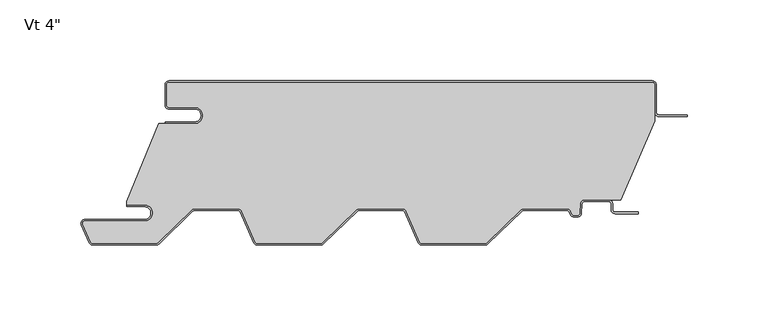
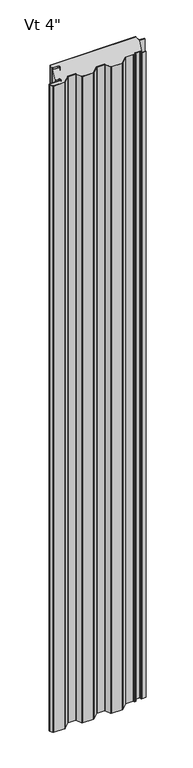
"""IFC4 building model written with IfcOpenShell, lengths in millimetres: plate geometry."""

import ifcopenshell
import ifcopenshell.guid

model = None  # the IFC model being written
_history = None  # IfcOwnerHistory: only IFC2X3 demands one
_inside = {}  # id of a spatial element -> (the spatial element, [elements in it])
_under = {}  # id of a project, library or spatial element -> (it, [spatial elements below it])
_declared = {}  # id of a project -> (the project, [libraries it declares])
_typed = {}  # id of a type object -> (the type object, [elements of that type])
_made_of = {}  # id of a material, layer set ... -> (it, [elements and type objects made of it])


def new_model(schema):
    """Start an empty IFC model of exactly this schema.

    Asked for "IFC4X3", IfcOpenShell would pick the latest addendum, in which some entities
    have other attributes; the version numbers below select the first issue.
    IFC2X3 requires an IfcOwnerHistory on every rooted entity: one is made here for all.
    """
    global model, _history
    if schema == "IFC4X3":
        model = ifcopenshell.file(schema_version=(4, 3, 0, 0))
    else:
        model = ifcopenshell.file(schema=schema)
    _inside.clear()
    _under.clear()
    _declared.clear()
    _typed.clear()
    _made_of.clear()
    _history = None
    if model.schema == "IFC2X3":
        org = make("IfcOrganization", Name="unknown")
        user = make(
            "IfcPersonAndOrganization",
            ThePerson=make("IfcPerson", FamilyName="unknown"),
            TheOrganization=org,
        )
        app = make(
            "IfcApplication",
            ApplicationDeveloper=org,
            Version="unknown",
            ApplicationFullName="unknown",
            ApplicationIdentifier="unknown",
        )
        _history = make(
            "IfcOwnerHistory",
            OwningUser=user,
            OwningApplication=app,
            ChangeAction="ADDED",
            CreationDate=0,
        )
    return model


def make(cls, **values):
    """One entity of the class cls with the attributes given. An attribute that is None is left unset."""
    return model.create_entity(
        cls, **{name: value for name, value in values.items() if value is not None}
    )


def rooted(cls, **values):
    """An entity with a GlobalId (a new one), such as an element, a storey or a relation."""
    return make(cls, GlobalId=ifcopenshell.guid.new(), OwnerHistory=_history, **values)


def si_unit(unit_type, name, prefix=None):
    """IfcSIUnit, for example si_unit("LENGTHUNIT", "METRE", prefix="MILLI")."""
    return make("IfcSIUnit", UnitType=unit_type, Prefix=prefix, Name=name)


def assignment(units):
    """IfcUnitAssignment: the units of a project."""
    return None if units is None else make("IfcUnitAssignment", Units=units)


def point(xyz):
    """IfcCartesianPoint."""
    return None if xyz is None else make("IfcCartesianPoint", Coordinates=xyz)


def direction(xyz):
    """IfcDirection."""
    return None if xyz is None else make("IfcDirection", DirectionRatios=xyz)


def frame(location, z_axis=None, x_axis=None):
    """IfcAxis2Placement3D, a coordinate frame: its origin and axes. An axis left out is left unset."""
    return make(
        "IfcAxis2Placement3D",
        Location=point(location),
        Axis=direction(z_axis),
        RefDirection=direction(x_axis),
    )


def frame_2d(location, x_axis=None):
    """IfcAxis2Placement2D, a coordinate frame in the plane: its origin and x axis."""
    return make(
        "IfcAxis2Placement2D", Location=point(location), RefDirection=direction(x_axis)
    )


def origin():
    """The frame at (0, 0, 0) with its axes left unset."""
    return frame((0.0, 0.0, 0.0))


def origin_with_axes():
    """The frame at (0, 0, 0) with the z axis (0, 0, 1) and the x axis (1, 0, 0) written out."""
    return frame((0.0, 0.0, 0.0), z_axis=(0.0, 0.0, 1.0), x_axis=(1.0, 0.0, 0.0))


def place(relative_to, where):
    """IfcLocalPlacement: puts the frame where relative to a parent placement (None: the world)."""
    return make(
        "IfcLocalPlacement", PlacementRelTo=relative_to, RelativePlacement=where
    )


def context(
    kind, dimensions, precision=None, world=None, true_north=None, identifier=None
):
    """IfcGeometricRepresentationContext, for example the 3D "Model" context."""
    return make(
        "IfcGeometricRepresentationContext",
        ContextIdentifier=identifier,
        ContextType=kind,
        CoordinateSpaceDimension=dimensions,
        Precision=precision,
        WorldCoordinateSystem=world,
        TrueNorth=true_north,
    )


def project(units=None, contexts=None):
    """IfcProject with its units and contexts."""
    return rooted(
        "IfcProject",
        Name="project",
        RepresentationContexts=contexts,
        UnitsInContext=assignment(units),
    )


def spatial(cls, under=None, at=None, **own):
    """A site, building, storey or space (cls), placed at a placement, below another one or the project."""
    s = rooted(cls, ObjectPlacement=at, **own)
    if under is not None:
        _under.setdefault(under.id(), (under, []))[1].append(s)
    return s


def polyline(points):
    """IfcPolyline through the points."""
    return make("IfcPolyline", Points=[point(p) for p in points])


def circle_curve(where, radius):
    """IfcCircle in the frame where."""
    return make("IfcCircle", Position=where, Radius=radius)


def trimmed(basis, trim1, trim2, sense, master):
    """IfcTrimmedCurve: the piece of a basis curve between two trims."""
    return make(
        "IfcTrimmedCurve",
        BasisCurve=basis,
        Trim1=trim1,
        Trim2=trim2,
        SenseAgreement=sense,
        MasterRepresentation=master,
    )


def segment(curve, same_sense, transition):
    """IfcCompositeCurveSegment."""
    return make(
        "IfcCompositeCurveSegment",
        Transition=transition,
        SameSense=same_sense,
        ParentCurve=curve,
    )


def composite_curve(segments, self_intersect=None):
    """IfcCompositeCurve: segments joined end to end."""
    return make("IfcCompositeCurve", Segments=segments, SelfIntersect=self_intersect)


def outline(outer, holes=None, kind="AREA"):
    """IfcArbitraryClosedProfileDef: a profile drawn as a closed curve; with holes, ...WithVoids."""
    if holes is None:
        return make("IfcArbitraryClosedProfileDef", ProfileType=kind, OuterCurve=outer)
    return make(
        "IfcArbitraryProfileDefWithVoids",
        ProfileType=kind,
        OuterCurve=outer,
        InnerCurves=holes,
    )


def extrude(swept, where, along, depth):
    """IfcExtrudedAreaSolid: the profile swept, set in the frame where, extruded along a direction by depth."""
    return make(
        "IfcExtrudedAreaSolid",
        SweptArea=swept,
        Position=where,
        ExtrudedDirection=direction(along),
        Depth=depth,
    )


def shape(context_of_items, identifier, shape_type, items):
    """IfcShapeRepresentation: the items that make up one representation, for example the "Body"."""
    return make(
        "IfcShapeRepresentation",
        ContextOfItems=context_of_items,
        RepresentationIdentifier=identifier,
        RepresentationType=shape_type,
        Items=items,
    )


def source(mapping_origin, context_of_items, identifier, shape_type, items):
    """IfcRepresentationMap: a shape defined once, which mapped items show again and again."""
    return make(
        "IfcRepresentationMap",
        MappingOrigin=mapping_origin,
        MappedRepresentation=shape(context_of_items, identifier, shape_type, items),
    )


def transform(
    local_origin,
    x_axis=None,
    y_axis=None,
    z_axis=None,
    scale=None,
    scale2=None,
    scale3=None,
    uniform=True,
):
    """IfcCartesianTransformationOperator3D, or its non-uniform kind. x_axis, y_axis, z_axis: its Axis1, 2, 3."""
    if uniform:
        return make(
            "IfcCartesianTransformationOperator3D",
            Axis1=direction(x_axis),
            Axis2=direction(y_axis),
            LocalOrigin=point(local_origin),
            Scale=scale,
            Axis3=direction(z_axis),
        )
    return make(
        "IfcCartesianTransformationOperator3DnonUniform",
        Axis1=direction(x_axis),
        Axis2=direction(y_axis),
        LocalOrigin=point(local_origin),
        Scale=scale,
        Axis3=direction(z_axis),
        Scale2=scale2,
        Scale3=scale3,
    )


def mapped(mapping_source, mapping_target):
    """IfcMappedItem: shows the shape of a source again, moved by a transform."""
    return make(
        "IfcMappedItem", MappingSource=mapping_source, MappingTarget=mapping_target
    )


def made_of(thing, what):
    """Note that an element or type object is made of a material, layer set ...; save() writes the relation."""
    if what is not None:
        _made_of.setdefault(what.id(), (what, []))[1].append(thing)
    return thing


def element(
    cls,
    number,
    at=None,
    inside=None,
    cuts=None,
    type_object=None,
    material=None,
    context=None,
    identifier="Body",
    shape_type=None,
    held_by="IfcProductDefinitionShape",
    body=None,
    shapes=None,
    **own,
):
    """One element of the class cls, such as IfcWall. Its Tag is "e" and its number.

    at: its placement. inside: the storey or other place that contains it. cuts: it is an
    opening in that element (IfcRelVoidsElement). A single representation is given by context,
    identifier, shape_type and body (its items); several are given by shapes. held_by: the class
    of the entity that holds the representations. save() writes the other relations.
    """
    e = rooted(cls, Tag="e%d" % number, ObjectPlacement=at, **own)
    if body is not None:
        shapes = [shape(context, identifier, shape_type, body)]
    if shapes is not None:
        e.Representation = make(held_by, Representations=shapes)
    if inside is not None:
        _inside.setdefault(inside.id(), (inside, []))[1].append(e)
    if cuts is not None:
        rooted(
            "IfcRelVoidsElement", RelatingBuildingElement=cuts, RelatedOpeningElement=e
        )
    if type_object is not None:
        _typed.setdefault(type_object.id(), (type_object, []))[1].append(e)
    return made_of(e, material)


def aggregate(whole, parts):
    """IfcRelAggregates: a whole, such as a stair, and the parts it consists of."""
    return rooted("IfcRelAggregates", RelatingObject=whole, RelatedObjects=parts)


def save(model, path):
    """Write the relations noted so far, then the file.

    IfcRelAggregates (storeys below a building ...), IfcRelContainedInSpatialStructure (elements
    in a storey), IfcRelDefinesByType, IfcRelAssociatesMaterial and IfcRelDeclares: one each for
    every whole, place, type object, material and project.
    """
    for whole, parts in _under.values():
        aggregate(whole, parts)
    for where, things in _inside.values():
        rooted(
            "IfcRelContainedInSpatialStructure",
            RelatedElements=things,
            RelatingStructure=where,
        )
    for kind, things in _typed.values():
        rooted("IfcRelDefinesByType", RelatedObjects=things, RelatingType=kind)
    for what, things in _made_of.values():
        rooted("IfcRelAssociatesMaterial", RelatedObjects=things, RelatingMaterial=what)
    for by, libraries in _declared.values():
        rooted("IfcRelDeclares", RelatingContext=by, RelatedDefinitions=libraries)
    model.write(path)


def plate_20f1ea8d(model_context):
    return source(origin(), model_context, "Body", "SweptSolid", [
        extrude(outline(composite_curve([segment(trimmed(circle_curve(frame_2d((-133.34375, -21.4324412)), 4.96875), [point((-133.34375, -26.4011912))], [point((-133.34375, -16.4636912))], True, "CARTESIAN"), True, "CONTINUOUS"), segment(polyline([(-133.34375, -16.4636912), (-149.21875, -16.4636912)]), True, "CONTINUOUS"), segment(trimmed(circle_curve(frame_2d((-149.21875, -15.0824412)), 1.38125), [point((-149.21875, -16.4636912))], [point((-150.6, -15.0824412))], False, "CARTESIAN"), True, "CONTINUOUS"), segment(polyline([(-150.6, -15.0824412), (-150.6, -2.3824412)]), True, "CONTINUOUS"), segment(trimmed(circle_curve(frame_2d((-149.21875, -2.3824412)), 1.38125), [point((-150.6, -2.3824412))], [point((-149.21875, -1.0011912))], False, "CARTESIAN"), True, "CONTINUOUS"), segment(polyline([(-149.21875, -1.0011912), (149.23125, -1.0011912)]), True, "CONTINUOUS"), segment(trimmed(circle_curve(frame_2d((149.23125, -2.3824412)), 1.38125), [point((149.23125, -1.0011912))], [point((150.6125, -2.3824412))], False, "CARTESIAN"), True, "CONTINUOUS"), segment(polyline([(150.6125, -2.3824412), (150.6125, -24.8719682), (129.7955434, -73.6136912), (107.3683457, -73.6136912)]), True, "CONTINUOUS"), segment(trimmed(circle_curve(frame_2d((107.3683457, -76.2011912)), 2.5875), [point((107.3683457, -73.6136912))], [point((104.7843918, -76.0657719))], True, "CARTESIAN"), True, "CONTINUOUS"), segment(polyline([(104.7843918, -76.0657719), (104.4823155, -81.8297302)]), True, "CONTINUOUS"), segment(trimmed(circle_curve(frame_2d((103.1029585, -81.7574412)), 1.38125), [point((104.4823155, -81.8297302))], [point((103.1029585, -83.1386912))], False, "CARTESIAN"), True, "CONTINUOUS"), segment(polyline([(103.1029585, -83.1386912), (100.7754519, -83.1386912)]), True, "CONTINUOUS"), segment(trimmed(circle_curve(frame_2d((100.7754519, -81.7574412)), 1.38125), [point((100.7754519, -83.1386912))], [point((99.5124516, -82.3166208))], False, "CARTESIAN"), True, "CONTINUOUS"), segment(polyline([(99.5124516, -82.3166208), (98.7640306, -80.6261871)]), True, "CONTINUOUS"), segment(trimmed(circle_curve(frame_2d((96.3980481, -81.6737)), 2.5875), [point((98.7640306, -80.6261871))], [point((96.3980481, -79.0862))], True, "CARTESIAN"), True, "CONTINUOUS"), segment(polyline([(96.3980481, -79.0862), (69.8742003, -79.0862)]), True, "CONTINUOUS"), segment(trimmed(circle_curve(frame_2d((69.8742003, -81.6737)), 2.5875), [point((69.8742003, -79.0862))], [point((68.0745496, -79.8145567))], True, "CARTESIAN"), True, "CONTINUOUS"), segment(polyline([(68.0745496, -79.8145567), (47.0036462, -100.2111912)]), True, "CONTINUOUS"), segment(trimmed(circle_curve(frame_2d((46.0429631, -99.21875)), 1.38125), [point((47.0036462, -100.2111912))], [point((46.0429631, -100.6))], False, "CARTESIAN"), True, "CONTINUOUS"), segment(polyline([(46.0429631, -100.6), (6.9062557, -100.6)]), True, "CONTINUOUS"), segment(trimmed(circle_curve(frame_2d((6.9062557, -99.21875)), 1.38125), [point((6.9062557, -100.6))], [point((5.6432554, -99.7779296))], False, "CARTESIAN"), True, "CONTINUOUS"), segment(polyline([(5.6432554, -99.7779296), (-2.8359694, -80.6261871)]), True, "CONTINUOUS"), segment(trimmed(circle_curve(frame_2d((-5.2019519, -81.6737)), 2.5875), [point((-2.8359694, -80.6261871))], [point((-5.2019519, -79.0862))], True, "CARTESIAN"), True, "CONTINUOUS"), segment(polyline([(-5.2019519, -79.0862), (-31.7257997, -79.0862)]), True, "CONTINUOUS"), segment(trimmed(circle_curve(frame_2d((-31.7257997, -81.6737)), 2.5875), [point((-31.7257997, -79.0862))], [point((-33.5254504, -79.8145567))], True, "CARTESIAN"), True, "CONTINUOUS"), segment(polyline([(-33.5254504, -79.8145567), (-54.5963538, -100.2111912)]), True, "CONTINUOUS"), segment(trimmed(circle_curve(frame_2d((-55.5570369, -99.21875)), 1.38125), [point((-54.5963538, -100.2111912))], [point((-55.5570369, -100.6))], False, "CARTESIAN"), True, "CONTINUOUS"), segment(polyline([(-55.5570369, -100.6), (-94.6937443, -100.6)]), True, "CONTINUOUS"), segment(trimmed(circle_curve(frame_2d((-94.6937443, -99.21875)), 1.38125), [point((-94.6937443, -100.6))], [point((-95.9567446, -99.7779296))], False, "CARTESIAN"), True, "CONTINUOUS"), segment(polyline([(-95.9567446, -99.7779296), (-104.4359694, -80.6261871)]), True, "CONTINUOUS"), segment(trimmed(circle_curve(frame_2d((-106.8019519, -81.6737)), 2.5875), [point((-104.4359694, -80.6261871))], [point((-106.8019519, -79.0862))], True, "CARTESIAN"), True, "CONTINUOUS"), segment(polyline([(-106.8019519, -79.0862), (-133.3257997, -79.0862)]), True, "CONTINUOUS"), segment(trimmed(circle_curve(frame_2d((-133.3257997, -81.6737)), 2.5875), [point((-133.3257997, -79.0862))], [point((-135.1254504, -79.8145567))], True, "CARTESIAN"), True, "CONTINUOUS"), segment(polyline([(-135.1254504, -79.8145567), (-155.9876931, -100.0092077)]), True, "CONTINUOUS"), segment(trimmed(circle_curve(frame_2d((-157.4474446, -98.5012)), 2.0988), [point((-155.9876931, -100.0092077))], [point((-157.4474446, -100.6))], False, "CARTESIAN"), True, "CONTINUOUS"), segment(polyline([(-157.4474446, -100.6), (-196.2937443, -100.6)]), True, "CONTINUOUS"), segment(trimmed(circle_curve(frame_2d((-196.2937443, -99.21875)), 1.38125), [point((-196.2937443, -100.6))], [point((-197.5567446, -99.7779296))], False, "CARTESIAN"), True, "CONTINUOUS"), segment(polyline([(-197.5567446, -99.7779296), (-202.4761552, -88.6666208)]), True, "CONTINUOUS"), segment(trimmed(circle_curve(frame_2d((-201.2131549, -88.1074412)), 1.38125), [point((-202.4761552, -88.6666208))], [point((-201.2131549, -86.7261912))], False, "CARTESIAN"), True, "CONTINUOUS"), segment(polyline([(-201.2131549, -86.7261912), (-164.3, -86.7261912)]), True, "CONTINUOUS"), segment(trimmed(circle_curve(frame_2d((-164.3, -81.7574412)), 4.96875), [point((-164.3, -86.7261912))], [point((-164.3, -76.7886912))], True, "CARTESIAN"), True, "CONTINUOUS"), segment(polyline([(-164.3, -76.7886912), (-175.4125, -76.7886912), (-175.4125, -74.633822), (-155.5914112, -26.4011912), (-133.34375, -26.4011912)]), True, "CONTINUOUS")], self_intersect=False)), origin_with_axes(), (0.0, 0.0, 1.0), 2400.0),
        extrude(outline(composite_curve([segment(polyline([(-151.6, -25.4), (-133.34375, -25.4)]), True, "CONTINUOUS"), segment(trimmed(circle_curve(frame_2d((-133.34375, -21.43125)), 3.96875), [point((-133.34375, -25.4))], [point((-133.34375, -17.4625))], True, "CARTESIAN"), True, "CONTINUOUS"), segment(polyline([(-133.34375, -17.4625), (-149.21875, -17.4625)]), True, "CONTINUOUS"), segment(trimmed(circle_curve(frame_2d((-149.21875, -15.08125)), 2.38125), [point((-149.21875, -17.4625))], [point((-151.6, -15.08125))], False, "CARTESIAN"), True, "CONTINUOUS"), segment(polyline([(-151.6, -15.08125), (-151.6, -2.38125)]), True, "CONTINUOUS"), segment(trimmed(circle_curve(frame_2d((-149.21875, -2.38125)), 2.38125), [point((-151.6, -2.38125))], [point((-149.21875, 0.0))], False, "CARTESIAN"), True, "CONTINUOUS"), segment(polyline([(-149.21875, 0.0), (149.23125, 0.0)]), True, "CONTINUOUS"), segment(trimmed(circle_curve(frame_2d((149.23125, -2.38125)), 2.38125), [point((149.23125, 0.0))], [point((151.6125, -2.38125))], False, "CARTESIAN"), True, "CONTINUOUS"), segment(polyline([(151.6125, -2.38125), (151.6125, -19.446875)]), True, "CONTINUOUS"), segment(trimmed(circle_curve(frame_2d((153.2, -19.446875)), 1.5875), [point((151.6125, -19.446875))], [point((153.2, -21.034375))], True, "CARTESIAN"), True, "CONTINUOUS"), segment(polyline([(153.2, -21.034375), (170.6625, -21.034375), (170.6625, -22.034375), (153.2, -22.034375)]), True, "CONTINUOUS"), segment(trimmed(circle_curve(frame_2d((153.2, -19.446875)), 2.5875), [point((153.2, -22.034375))], [point((150.6125, -19.446875))], False, "CARTESIAN"), True, "CONTINUOUS"), segment(polyline([(150.6125, -19.446875), (150.6125, -2.38125)]), True, "CONTINUOUS"), segment(trimmed(circle_curve(frame_2d((149.23125, -2.38125)), 1.38125), [point((150.6125, -2.38125))], [point((149.23125, -1.0))], True, "CARTESIAN"), True, "CONTINUOUS"), segment(polyline([(149.23125, -1.0), (-149.21875, -1.0)]), True, "CONTINUOUS"), segment(trimmed(circle_curve(frame_2d((-149.21875, -2.38125)), 1.38125), [point((-149.21875, -1.0))], [point((-150.6, -2.38125))], True, "CARTESIAN"), True, "CONTINUOUS"), segment(polyline([(-150.6, -2.38125), (-150.6, -15.08125)]), True, "CONTINUOUS"), segment(trimmed(circle_curve(frame_2d((-149.21875, -15.08125)), 1.38125), [point((-150.6, -15.08125))], [point((-149.21875, -16.4625))], True, "CARTESIAN"), True, "CONTINUOUS"), segment(polyline([(-149.21875, -16.4625), (-133.34375, -16.4625)]), True, "CONTINUOUS"), segment(trimmed(circle_curve(frame_2d((-133.34375, -21.43125)), 4.96875), [point((-133.34375, -16.4625))], [point((-133.34375, -26.4))], False, "CARTESIAN"), True, "CONTINUOUS"), segment(polyline([(-133.34375, -26.4), (-151.6, -26.4), (-151.6, -25.4)]), True, "CONTINUOUS")], self_intersect=False)), origin_with_axes(), (0.0, 0.0, 1.0), 2400.0),
        extrude(outline(composite_curve([segment(trimmed(circle_curve(frame_2d((-164.3, -81.7574412)), 3.96875), [point((-164.3, -85.7261912))], [point((-164.3, -77.7886912))], True, "CARTESIAN"), True, "CONTINUOUS"), segment(polyline([(-164.3, -77.7886912), (-175.4125, -77.7886912), (-175.4125, -76.7886912), (-164.3, -76.7886912)]), True, "CONTINUOUS"), segment(trimmed(circle_curve(frame_2d((-164.3, -81.7574412)), 4.96875), [point((-164.3, -76.7886912))], [point((-164.3, -86.7261912))], False, "CARTESIAN"), True, "CONTINUOUS"), segment(polyline([(-164.3, -86.7261912), (-201.2131549, -86.7261912)]), True, "CONTINUOUS"), segment(trimmed(circle_curve(frame_2d((-201.2131549, -88.1074412)), 1.38125), [point((-201.2131549, -86.7261912))], [point((-202.4761552, -88.6666208))], True, "CARTESIAN"), True, "CONTINUOUS"), segment(polyline([(-202.4761552, -88.6666208), (-197.5567446, -99.7779296)]), True, "CONTINUOUS"), segment(trimmed(circle_curve(frame_2d((-196.2937443, -99.21875)), 1.38125), [point((-197.5567446, -99.7779296))], [point((-196.2937443, -100.6))], True, "CARTESIAN"), True, "CONTINUOUS"), segment(polyline([(-196.2937443, -100.6), (-157.4474446, -100.6)]), True, "CONTINUOUS"), segment(trimmed(circle_curve(frame_2d((-157.4474446, -98.5012)), 2.0988), [point((-157.4474446, -100.6))], [point((-155.9876931, -100.0092077))], True, "CARTESIAN"), True, "CONTINUOUS"), segment(polyline([(-155.9876931, -100.0092077), (-135.1254504, -79.8145567)]), True, "CONTINUOUS"), segment(trimmed(circle_curve(frame_2d((-133.3257997, -81.6737)), 2.5875), [point((-135.1254504, -79.8145567))], [point((-133.3257997, -79.0862))], False, "CARTESIAN"), True, "CONTINUOUS"), segment(polyline([(-133.3257997, -79.0862), (-106.8019519, -79.0862)]), True, "CONTINUOUS"), segment(trimmed(circle_curve(frame_2d((-106.8019519, -81.6737)), 2.5875), [point((-106.8019519, -79.0862))], [point((-104.4359694, -80.6261871))], False, "CARTESIAN"), True, "CONTINUOUS"), segment(polyline([(-104.4359694, -80.6261871), (-95.9567446, -99.7779296)]), True, "CONTINUOUS"), segment(trimmed(circle_curve(frame_2d((-94.6937443, -99.21875)), 1.38125), [point((-95.9567446, -99.7779296))], [point((-94.6937443, -100.6))], True, "CARTESIAN"), True, "CONTINUOUS"), segment(polyline([(-94.6937443, -100.6), (-55.5570369, -100.6)]), True, "CONTINUOUS"), segment(trimmed(circle_curve(frame_2d((-55.5570369, -99.21875)), 1.38125), [point((-55.5570369, -100.6))], [point((-54.5963538, -100.2111912))], True, "CARTESIAN"), True, "CONTINUOUS"), segment(polyline([(-54.5963538, -100.2111912), (-33.5254504, -79.8145567)]), True, "CONTINUOUS"), segment(trimmed(circle_curve(frame_2d((-31.7257997, -81.6737)), 2.5875), [point((-33.5254504, -79.8145567))], [point((-31.7257997, -79.0862))], False, "CARTESIAN"), True, "CONTINUOUS"), segment(polyline([(-31.7257997, -79.0862), (-5.2019519, -79.0862)]), True, "CONTINUOUS"), segment(trimmed(circle_curve(frame_2d((-5.2019519, -81.6737)), 2.5875), [point((-5.2019519, -79.0862))], [point((-2.8359694, -80.6261871))], False, "CARTESIAN"), True, "CONTINUOUS"), segment(polyline([(-2.8359694, -80.6261871), (5.6432554, -99.7779296)]), True, "CONTINUOUS"), segment(trimmed(circle_curve(frame_2d((6.9062557, -99.21875)), 1.38125), [point((5.6432554, -99.7779296))], [point((6.9062557, -100.6))], True, "CARTESIAN"), True, "CONTINUOUS"), segment(polyline([(6.9062557, -100.6), (46.0429631, -100.6)]), True, "CONTINUOUS"), segment(trimmed(circle_curve(frame_2d((46.0429631, -99.21875)), 1.38125), [point((46.0429631, -100.6))], [point((47.0036462, -100.2111912))], True, "CARTESIAN"), True, "CONTINUOUS"), segment(polyline([(47.0036462, -100.2111912), (68.0745496, -79.8145567)]), True, "CONTINUOUS"), segment(trimmed(circle_curve(frame_2d((69.8742003, -81.6737)), 2.5875), [point((68.0745496, -79.8145567))], [point((69.8742003, -79.0862))], False, "CARTESIAN"), True, "CONTINUOUS"), segment(polyline([(69.8742003, -79.0862), (96.3980481, -79.0862)]), True, "CONTINUOUS"), segment(trimmed(circle_curve(frame_2d((96.3980481, -81.6737)), 2.5875), [point((96.3980481, -79.0862))], [point((98.7640306, -80.6261871))], False, "CARTESIAN"), True, "CONTINUOUS"), segment(polyline([(98.7640306, -80.6261871), (99.5124516, -82.3166208)]), True, "CONTINUOUS"), segment(trimmed(circle_curve(frame_2d((100.7754519, -81.7574412)), 1.38125), [point((99.5124516, -82.3166208))], [point((100.7754519, -83.1386912))], True, "CARTESIAN"), True, "CONTINUOUS"), segment(polyline([(100.7754519, -83.1386912), (103.1029585, -83.1386912)]), True, "CONTINUOUS"), segment(trimmed(circle_curve(frame_2d((103.1029585, -81.7574412)), 1.38125), [point((103.1029585, -83.1386912))], [point((104.4823155, -81.8297302))], True, "CARTESIAN"), True, "CONTINUOUS"), segment(polyline([(104.4823155, -81.8297302), (104.7843918, -76.0657719)]), True, "CONTINUOUS"), segment(trimmed(circle_curve(frame_2d((107.3683457, -76.2011912)), 2.5875), [point((104.7843918, -76.0657719))], [point((107.3683457, -73.6136912))], False, "CARTESIAN"), True, "CONTINUOUS"), segment(polyline([(107.3683457, -73.6136912), (122.24375, -73.6136912)]), True, "CONTINUOUS"), segment(trimmed(circle_curve(frame_2d((122.24375, -76.2011912)), 2.5875), [point((122.24375, -73.6136912))], [point((124.83125, -76.2011912))], False, "CARTESIAN"), True, "CONTINUOUS"), segment(polyline([(124.83125, -76.2011912), (124.83125, -79.7730662)]), True, "CONTINUOUS"), segment(trimmed(circle_curve(frame_2d((126.2125, -79.7730662)), 1.38125), [point((124.83125, -79.7730662))], [point((126.2125, -81.1543162))], True, "CARTESIAN"), True, "CONTINUOUS"), segment(polyline([(126.2125, -81.1543162), (140.5, -81.1543162), (140.5, -82.1543162), (126.2125, -82.1543162)]), True, "CONTINUOUS"), segment(trimmed(circle_curve(frame_2d((126.2125, -79.7730662)), 2.38125), [point((126.2125, -82.1543162))], [point((123.83125, -79.7730662))], False, "CARTESIAN"), True, "CONTINUOUS"), segment(polyline([(123.83125, -79.7730662), (123.83125, -76.2011912)]), True, "CONTINUOUS"), segment(trimmed(circle_curve(frame_2d((122.24375, -76.2011912)), 1.5875), [point((123.83125, -76.2011912))], [point((122.24375, -74.6136912))], True, "CARTESIAN"), True, "CONTINUOUS"), segment(polyline([(122.24375, -74.6136912), (107.3683457, -74.6136912)]), True, "CONTINUOUS"), segment(trimmed(circle_curve(frame_2d((107.3683457, -76.2011912)), 1.5875), [point((107.3683457, -74.6136912))], [point((105.7830213, -76.1181078))], True, "CARTESIAN"), True, "CONTINUOUS"), segment(polyline([(105.7830213, -76.1181078), (105.4809451, -81.8820662)]), True, "CONTINUOUS"), segment(trimmed(circle_curve(frame_2d((103.1029585, -81.7574412)), 2.38125), [point((105.4809451, -81.8820662))], [point((103.1029585, -84.1386912))], False, "CARTESIAN"), True, "CONTINUOUS"), segment(polyline([(103.1029585, -84.1386912), (100.7754519, -84.1386912)]), True, "CONTINUOUS"), segment(trimmed(circle_curve(frame_2d((100.7754519, -81.7574412)), 2.38125), [point((100.7754519, -84.1386912))], [point((98.5980623, -82.7214567))], False, "CARTESIAN"), True, "CONTINUOUS"), segment(polyline([(98.5980623, -82.7214567), (97.8496412, -81.031023)]), True, "CONTINUOUS"), segment(trimmed(circle_curve(frame_2d((96.3980481, -81.6737)), 1.5875), [point((97.8496412, -81.031023))], [point((96.3980481, -80.0862))], True, "CARTESIAN"), True, "CONTINUOUS"), segment(polyline([(96.3980481, -80.0862), (69.8742003, -80.0862)]), True, "CONTINUOUS"), segment(trimmed(circle_curve(frame_2d((69.8742003, -81.6737)), 1.5875), [point((69.8742003, -80.0862))], [point((68.7700668, -80.5330662))], True, "CARTESIAN"), True, "CONTINUOUS"), segment(polyline([(68.7700668, -80.5330662), (47.6991634, -100.9297007)]), True, "CONTINUOUS"), segment(trimmed(circle_curve(frame_2d((46.0429631, -99.21875)), 2.38125), [point((47.6991634, -100.9297007))], [point((46.0429631, -101.6))], False, "CARTESIAN"), True, "CONTINUOUS"), segment(polyline([(46.0429631, -101.6), (6.9062557, -101.6)]), True, "CONTINUOUS"), segment(trimmed(circle_curve(frame_2d((6.9062557, -99.21875)), 2.38125), [point((6.9062557, -101.6))], [point((4.7288661, -100.1827655))], False, "CARTESIAN"), True, "CONTINUOUS"), segment(polyline([(4.7288661, -100.1827655), (-3.7503588, -81.031023)]), True, "CONTINUOUS"), segment(trimmed(circle_curve(frame_2d((-5.2019519, -81.6737)), 1.5875), [point((-3.7503588, -81.031023))], [point((-5.2019519, -80.0862))], True, "CARTESIAN"), True, "CONTINUOUS"), segment(polyline([(-5.2019519, -80.0862), (-31.7257997, -80.0862)]), True, "CONTINUOUS"), segment(trimmed(circle_curve(frame_2d((-31.7257997, -81.6737)), 1.5875), [point((-31.7257997, -80.0862))], [point((-32.8299332, -80.5330662))], True, "CARTESIAN"), True, "CONTINUOUS"), segment(polyline([(-32.8299332, -80.5330662), (-53.9008366, -100.9297007)]), True, "CONTINUOUS"), segment(trimmed(circle_curve(frame_2d((-55.5570369, -99.21875)), 2.38125), [point((-53.9008366, -100.9297007))], [point((-55.5570369, -101.6))], False, "CARTESIAN"), True, "CONTINUOUS"), segment(polyline([(-55.5570369, -101.6), (-94.6937443, -101.6)]), True, "CONTINUOUS"), segment(trimmed(circle_curve(frame_2d((-94.6937443, -99.21875)), 2.38125), [point((-94.6937443, -101.6))], [point((-96.8711339, -100.1827655))], False, "CARTESIAN"), True, "CONTINUOUS"), segment(polyline([(-96.8711339, -100.1827655), (-105.3503588, -81.031023)]), True, "CONTINUOUS"), segment(trimmed(circle_curve(frame_2d((-106.8019519, -81.6737)), 1.5875), [point((-105.3503588, -81.031023))], [point((-106.8019519, -80.0862))], True, "CARTESIAN"), True, "CONTINUOUS"), segment(polyline([(-106.8019519, -80.0862), (-133.3257997, -80.0862)]), True, "CONTINUOUS"), segment(trimmed(circle_curve(frame_2d((-133.3257997, -81.6737)), 1.5875), [point((-133.3257997, -80.0862))], [point((-134.4299332, -80.5330662))], True, "CARTESIAN"), True, "CONTINUOUS"), segment(polyline([(-134.4299332, -80.5330662), (-155.2921759, -100.7277172)]), True, "CONTINUOUS"), segment(trimmed(circle_curve(frame_2d((-157.4474446, -98.5012)), 3.0988), [point((-155.2921759, -100.7277172))], [point((-157.4474446, -101.6))], False, "CARTESIAN"), True, "CONTINUOUS"), segment(polyline([(-157.4474446, -101.6), (-196.2937443, -101.6)]), True, "CONTINUOUS"), segment(trimmed(circle_curve(frame_2d((-196.2937443, -99.21875)), 2.38125), [point((-196.2937443, -101.6))], [point((-198.4711339, -100.1827655))], False, "CARTESIAN"), True, "CONTINUOUS"), segment(polyline([(-198.4711339, -100.1827655), (-203.3905446, -89.0714567)]), True, "CONTINUOUS"), segment(trimmed(circle_curve(frame_2d((-201.2131549, -88.1074412)), 2.38125), [point((-203.3905446, -89.0714567))], [point((-201.2131549, -85.7261912))], False, "CARTESIAN"), True, "CONTINUOUS"), segment(polyline([(-201.2131549, -85.7261912), (-164.3, -85.7261912)]), True, "CONTINUOUS")], self_intersect=False)), origin_with_axes(), (0.0, 0.0, 1.0), 2400.0),
    ])


if __name__ == "__main__":
    model = new_model("IFC4")
    model_context = context("Model", 3, world=origin())
    ifc_project = project(units=[si_unit("LENGTHUNIT", "METRE", prefix="MILLI")], contexts=[model_context])
    site = spatial("IfcSite", under=ifc_project)
    building = spatial("IfcBuilding", under=site)
    placement = place(None, origin())
    plate_shape = plate_20f1ea8d(model_context)
    element("IfcPlate", 1, ObjectType="KIP-12-DWR-R19-CP-Vt-S : Vt 4\"", at=placement, inside=building, context=model_context, shape_type="MappedRepresentation", body=[
        mapped(plate_shape, transform((0.0, 0.0, 0.0), x_axis=(1.0, 0.0, 0.0), y_axis=(0.0, 1.0, 0.0), z_axis=(0.0, 0.0, 1.0))),
    ])
    save(model, "model.ifc")
